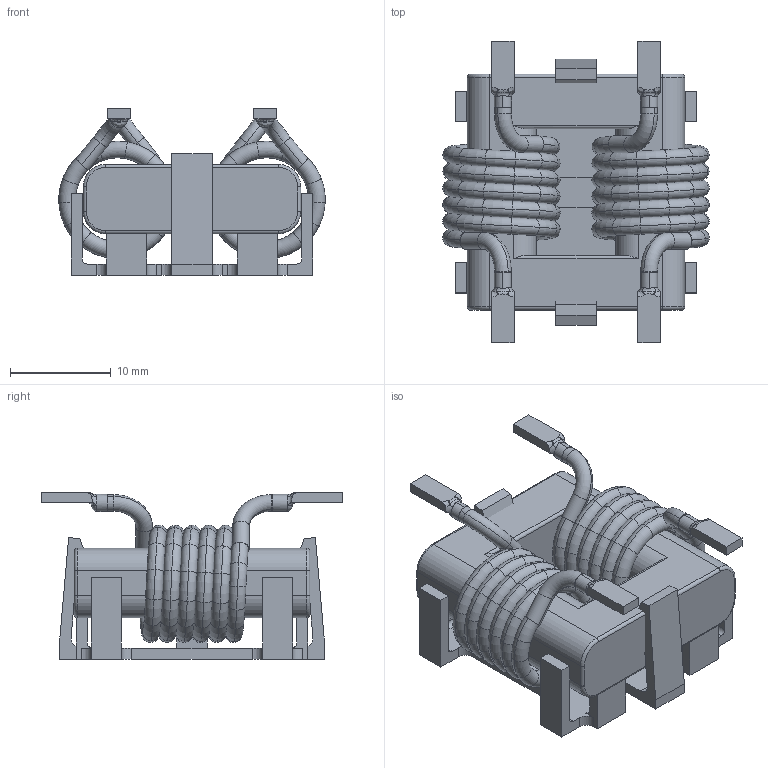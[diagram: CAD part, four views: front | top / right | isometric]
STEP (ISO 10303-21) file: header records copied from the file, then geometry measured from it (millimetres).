
FILE_DESCRIPTION (( 'STEP AP214' ), '1' );
FILE_NAME ('成品线圈3D图-SMD-0766-101.STEP', '2025-08-22T11:42:00', ( '微软用户' ), ( '微软中国' ), 'SwSTEP 2.0', 'SolidWorks 2018', '' );
FILE_SCHEMA (( 'AUTOMOTIVE_DESIGN' ));
Length unit declared in the file: millimetre
Products named in the file (3): 嘎殤; 线圈3D图-SMD-0766-101; 成品线圈3D图-SMD-0766-101
Assembly tree (2 placements, depth 2):
  成品线圈3D图-SMD-0766-101
    线圈3D图-SMD-0766-101
    嘎殤
Bounding box: 26.45 x 29.9 x 16.5 mm (x, y, z)
Volume: 4264.2 mm3; surface area: 5348.6 mm2
Topology: 4 solids, 4 shells, 529 faces, 1494 edges, 976 vertices
Faces by surface type: torus 304, plane 115, cylinder 74, bspline 36
Entity records: 22687 total; most frequent: CARTESIAN_POINT 6468, DIRECTION 3370, ORIENTED_EDGE 2988, AXIS2_PLACEMENT_3D 1518, EDGE_CURVE 1494, CIRCLE 1020, VERTEX_POINT 976, EDGE_LOOP 538
